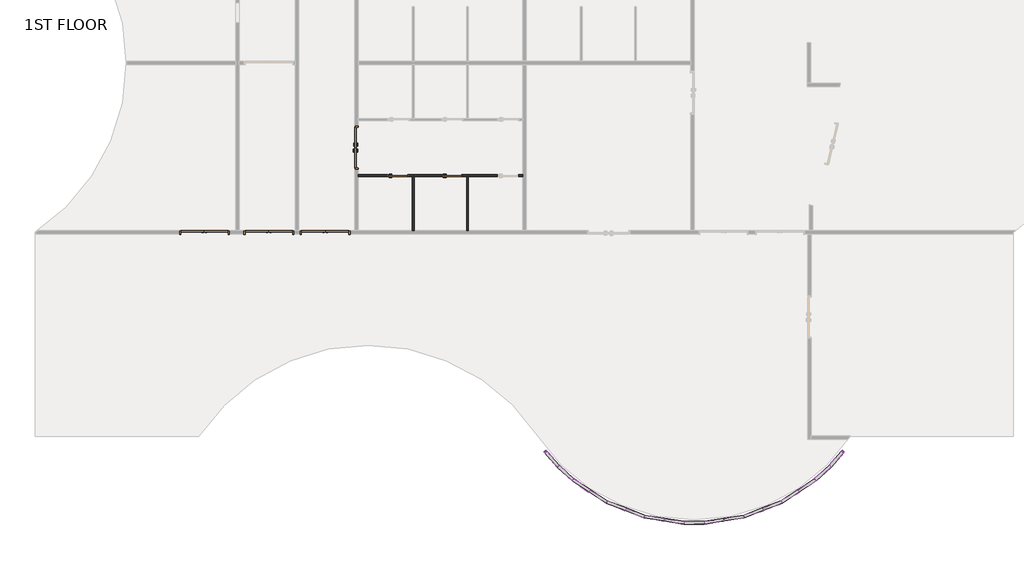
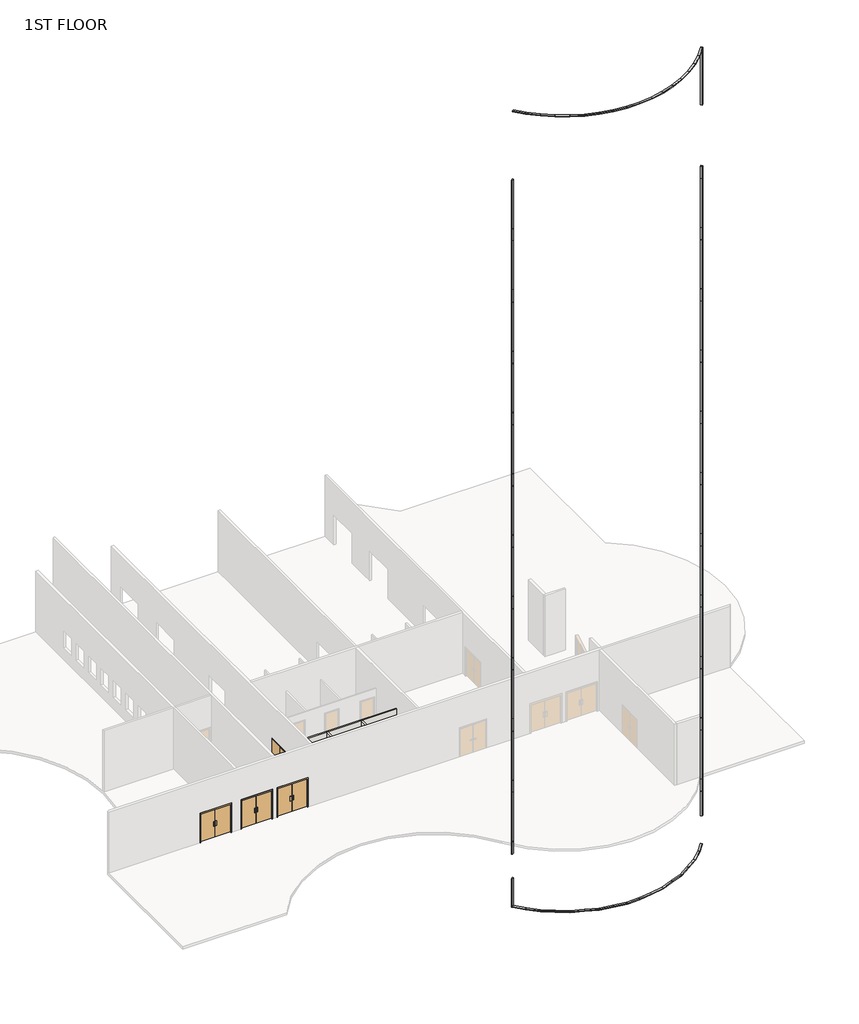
# One storey, part 1 of 17: 80 members, 6 doors, 3 walls.
"""IFC4 building model written with IfcOpenShell, lengths in millimetres."""

from ifc_helpers import new_model, si_unit, frame, origin, place, context, project, spatial, polyline, outline, extrude, faceted_brep, transform, mapped, element, save
from components import door_2f250f70, door_0b13e4d9, door_b3a27a16, door_f8b587be, member_a3aeaf12, member_a04b3e9c, member_866ffaa2, member_110634b6, member_0f373adf, member_7a4957c5, member_d8b564d6, member_ba27367e, member_8291d7f9, member_efa39264, member_3374d9b6, member_45b72dba, member_73c23c35, member_2fae0574, member_4d31274b

model = new_model("IFC4")

# Units and contexts
model_context = context("Model", 3, world=origin())
ifc_project = project(units=[si_unit("LENGTHUNIT", "METRE", prefix="MILLI")], contexts=[model_context])

# Site, building, storey
site = spatial("IfcSite", under=ifc_project)
building = spatial("IfcBuilding", under=site)
storey = spatial("IfcBuildingStorey", under=building, Name="1ST FLOOR", Elevation=4572.0)

# Doors
placement = place(None, origin())
door_shape = door_2f250f70(model_context)
element("IfcDoor", 1, ObjectType="Door-Passage-Double-Flush : 72\" x 82\"", at=placement, inside=storey, context=model_context, shape_type="MappedRepresentation", body=[
    mapped(door_shape, transform((14556.3400257, 13109.575, 4572.0), x_axis=(0.0, 1.0, 0.0), y_axis=(-1.0, 0.0, 0.0), z_axis=(0.0, 0.0, 1.0))),
])
door_2_shape = door_0b13e4d9(model_context)
element("IfcDoor", 2, ObjectType="Door-Passage-Double-Flush-Dbl_Acting : 84\" x 84\"", at=placement, inside=storey, context=model_context, shape_type="MappedRepresentation", body=[
    mapped(door_2_shape, transform((13151.4025257, 9293.225, 4572.0), x_axis=(-1.0, 0.0, 0.0), y_axis=(0.0, -1.0, 0.0), z_axis=(0.0, 0.0, 1.0))),
])
door_3_shape = door_b3a27a16(model_context)
element("IfcDoor", 3, ObjectType="Door-Passage-Double-Flush-Dbl_Acting : 84\" x 84\"", at=placement, inside=storey, context=model_context, shape_type="MappedRepresentation", body=[
    mapped(door_3_shape, transform((10620.375, 9293.225, 4572.0), x_axis=(1.0, 0.0, 0.0), y_axis=(0.0, 1.0, 0.0), z_axis=(0.0, 0.0, 1.0))),
])
element("IfcDoor", 4, ObjectType="Door-Passage-Double-Flush-Dbl_Acting : 84\" x 84\"", at=placement, inside=storey, context=model_context, shape_type="MappedRepresentation", body=[
    mapped(door_3_shape, transform((7730.5724743, 9293.225, 4572.0), x_axis=(1.0, 0.0, 0.0), y_axis=(0.0, 1.0, 0.0), z_axis=(0.0, 0.0, 1.0))),
])
door_4_shape = door_f8b587be(model_context)
element("IfcDoor", 5, ObjectType="Door-Passage-Single-Flush : 36\" x 96\"", at=placement, inside=storey, context=model_context, shape_type="MappedRepresentation", body=[
    mapped(door_4_shape, transform((16405.7775257, 11861.8, 4572.0), x_axis=(1.0, 0.0, 0.0), y_axis=(0.0, 1.0, 0.0), z_axis=(0.0, 0.0, 1.0))),
])
element("IfcDoor", 6, ObjectType="Door-Passage-Single-Flush : 36\" x 96\"", at=placement, inside=storey, context=model_context, shape_type="MappedRepresentation", body=[
    mapped(door_4_shape, transform((18836.2400257, 11861.8, 4572.0), x_axis=(1.0, 0.0, 0.0), y_axis=(0.0, 1.0, 0.0), z_axis=(0.0, 0.0, 1.0))),
])

# Members
member_shape = member_a3aeaf12(model_context)
element("IfcMember", 7, ObjectType="Rectangular Mullion : 2.5\" x 5\" rectangular", at=placement, inside=storey, context=model_context, shape_type="MappedRepresentation", body=[
    mapped(member_shape, transform((23054.0543465, -570.7527363, 59436.0), x_axis=(0.0, 0.0, 1.0), y_axis=(0.7489925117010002, 0.6625784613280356, 0.0), z_axis=(-0.6625784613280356, 0.7489925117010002, 0.0))),
])
member_2_shape = member_a04b3e9c(model_context)
element("IfcMember", 8, ObjectType="Rectangular Mullion : 2.5\" x 5\" rectangular", at=placement, inside=storey, context=model_context, shape_type="MappedRepresentation", body=[
    mapped(member_2_shape, transform((35812.732193, -1201.0963321, 59436.0), x_axis=(0.0, 0.0, 1.0), y_axis=(-0.7489925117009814, 0.662578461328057, 0.0), z_axis=(-0.662578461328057, -0.7489925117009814, 0.0))),
])
member_3_shape = member_866ffaa2(model_context)
element("IfcMember", 9, ObjectType="Rectangular Mullion : 2.5\" x 5\" rectangular", at=placement, inside=storey, context=model_context, shape_type="MappedRepresentation", body=[
    mapped(member_3_shape, transform((35144.7939118, -1811.8695298, 59436.0), x_axis=(0.0, 0.0, 1.0), y_axis=(-0.6748214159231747, 0.7379810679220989, 0.0), z_axis=(-0.7379810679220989, -0.6748214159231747, 0.0))),
])
element("IfcMember", 10, ObjectType="Rectangular Mullion : 2.5\" x 5\" rectangular", at=placement, inside=storey, context=model_context, shape_type="MappedRepresentation", body=[
    mapped(member_3_shape, transform((34416.08175, -2348.6786501, 59436.0), x_axis=(0.0, 0.0, 1.0), y_axis=(-0.5931011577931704, 0.8051279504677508, 0.0), z_axis=(-0.8051279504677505, -0.5931011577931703, 0.0))),
])
element("IfcMember", 11, ObjectType="Rectangular Mullion : 2.5\" x 5\" rectangular", at=placement, inside=storey, context=model_context, shape_type="MappedRepresentation", body=[
    mapped(member_3_shape, transform((33634.7477409, -2805.5184609, 59436.0), x_axis=(0.0, 0.0, 1.0), y_axis=(-0.504745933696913, 0.863267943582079, 0.0), z_axis=(-0.8632679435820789, -0.5047459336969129, 0.0))),
])
element("IfcMember", 12, ObjectType="Rectangular Mullion : 2.5\" x 5\" rectangular", at=placement, inside=storey, context=model_context, shape_type="MappedRepresentation", body=[
    mapped(member_3_shape, transform((32809.5325933, -3177.2783387, 59436.0), x_axis=(0.0, 0.0, 1.0), y_axis=(-0.4107441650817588, 0.9117506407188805, 0.0), z_axis=(-0.9117506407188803, -0.41074416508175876, 0.0))),
])
element("IfcMember", 13, ObjectType="Rectangular Mullion : 2.5\" x 5\" rectangular", at=placement, inside=storey, context=model_context, shape_type="MappedRepresentation", body=[
    mapped(member_3_shape, transform((31949.6679103, -3459.7994414, 59436.0), x_axis=(0.0, 0.0, 1.0), y_axis=(-0.3121474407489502, 0.9500336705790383, 0.0), z_axis=(-0.9500336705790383, -0.3121474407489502, 0.0))),
])
element("IfcMember", 14, ObjectType="Rectangular Mullion : 2.5\" x 5\" rectangular", at=placement, inside=storey, context=model_context, shape_type="MappedRepresentation", body=[
    mapped(member_3_shape, transform((31064.7729159, -3649.9212323, 59436.0), x_axis=(0.0, 0.0, 1.0), y_axis=(-0.21005875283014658, 0.9776887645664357, 0.0), z_axis=(-0.9776887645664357, -0.21005875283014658, 0.0))),
])
element("IfcMember", 15, ObjectType="Rectangular Mullion : 2.5\" x 5\" rectangular", at=placement, inside=storey, context=model_context, shape_type="MappedRepresentation", body=[
    mapped(member_3_shape, transform((30164.7468458, -3745.5168373, 59436.0), x_axis=(0.0, 0.0, 1.0), y_axis=(-0.10562015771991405, 0.9944065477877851, 0.0), z_axis=(-0.9944065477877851, -0.10562015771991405, 0.0))),
])
element("IfcMember", 16, ObjectType="Rectangular Mullion : 2.5\" x 5\" rectangular", at=placement, inside=storey, context=model_context, shape_type="MappedRepresentation", body=[
    mapped(member_3_shape, transform((29259.6582057, -3745.5168373, 59436.0), x_axis=(0.0, 0.0, 1.0), y_axis=(0.0, 1.0, 0.0), z_axis=(-1.0, 0.0, 0.0))),
])
element("IfcMember", 17, ObjectType="Rectangular Mullion : 2.5\" x 5\" rectangular", at=placement, inside=storey, context=model_context, shape_type="MappedRepresentation", body=[
    mapped(member_3_shape, transform((28359.6321356, -3649.9212323, 59436.0), x_axis=(0.0, 0.0, 1.0), y_axis=(0.10562015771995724, 0.9944065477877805, 0.0), z_axis=(-0.9944065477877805, 0.10562015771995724, 0.0))),
])
element("IfcMember", 18, ObjectType="Rectangular Mullion : 2.5\" x 5\" rectangular", at=placement, inside=storey, context=model_context, shape_type="MappedRepresentation", body=[
    mapped(member_3_shape, transform((27474.7371412, -3459.7994414, 59436.0), x_axis=(0.0, 0.0, 1.0), y_axis=(0.21005875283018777, 0.977688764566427, 0.0), z_axis=(-0.9776887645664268, 0.21005875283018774, 0.0))),
])
element("IfcMember", 19, ObjectType="Rectangular Mullion : 2.5\" x 5\" rectangular", at=placement, inside=storey, context=model_context, shape_type="MappedRepresentation", body=[
    mapped(member_3_shape, transform((26614.8724582, -3177.2783387, 59436.0), x_axis=(0.0, 0.0, 1.0), y_axis=(0.31214744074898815, 0.9500336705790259, 0.0), z_axis=(-0.9500336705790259, 0.31214744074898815, 0.0))),
])
element("IfcMember", 20, ObjectType="Rectangular Mullion : 2.5\" x 5\" rectangular", at=placement, inside=storey, context=model_context, shape_type="MappedRepresentation", body=[
    mapped(member_3_shape, transform((25789.6573106, -2805.5184609, 59436.0), x_axis=(0.0, 0.0, 1.0), y_axis=(0.4107441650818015, 0.9117506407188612, 0.0), z_axis=(-0.9117506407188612, 0.4107441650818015, 0.0))),
])
element("IfcMember", 21, ObjectType="Rectangular Mullion : 2.5\" x 5\" rectangular", at=placement, inside=storey, context=model_context, shape_type="MappedRepresentation", body=[
    mapped(member_3_shape, transform((25008.3233015, -2348.6786501, 59436.0), x_axis=(0.0, 0.0, 1.0), y_axis=(0.5047459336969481, 0.8632679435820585, 0.0), z_axis=(-0.8632679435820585, 0.5047459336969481, 0.0))),
])
element("IfcMember", 22, ObjectType="Rectangular Mullion : 2.5\" x 5\" rectangular", at=placement, inside=storey, context=model_context, shape_type="MappedRepresentation", body=[
    mapped(member_3_shape, transform((24279.6111396, -1811.8695298, 59436.0), x_axis=(0.0, 0.0, 1.0), y_axis=(0.593101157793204, 0.805127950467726, 0.0), z_axis=(-0.8051279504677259, 0.5931011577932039, 0.0))),
])
element("IfcMember", 23, ObjectType="Rectangular Mullion : 2.5\" x 5\" rectangular", at=placement, inside=storey, context=model_context, shape_type="MappedRepresentation", body=[
    mapped(member_shape, transform((36370.350705, -570.7527363, 0.0), x_axis=(0.0, 0.0, -1.0), y_axis=(-0.7489925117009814, 0.662578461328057, 0.0), z_axis=(0.662578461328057, 0.7489925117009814, 0.0))),
])
member_4_shape = member_110634b6(model_context)
element("IfcMember", 24, ObjectType="Rectangular Mullion : 2.5\" x 5\" rectangular", at=placement, inside=storey, context=model_context, shape_type="MappedRepresentation", body=[
    mapped(member_4_shape, transform((35812.732193, -1201.0963321, 0.0), x_axis=(0.0, 0.0, -1.0), y_axis=(-0.6748214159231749, 0.7379810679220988, 0.0), z_axis=(0.7379810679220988, 0.6748214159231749, 0.0))),
])
member_5_shape = member_0f373adf(model_context)
element("IfcMember", 25, ObjectType="Rectangular Mullion : 2.5\" x 5\" rectangular", at=placement, inside=storey, context=model_context, shape_type="MappedRepresentation", body=[
    mapped(member_5_shape, transform((35144.7939118, -1811.8695298, 0.0), x_axis=(0.0, 0.0, -1.0), y_axis=(-0.5496927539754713, 0.8353669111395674, 0.0), z_axis=(0.8353669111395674, 0.5496927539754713, 0.0))),
])
element("IfcMember", 26, ObjectType="Rectangular Mullion : 2.5\" x 5\" rectangular", at=placement, inside=storey, context=model_context, shape_type="MappedRepresentation", body=[
    mapped(member_5_shape, transform((29259.6582057, -3745.5168373, 0.0), x_axis=(0.0, 0.0, -1.0), y_axis=(0.15806063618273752, 0.9874294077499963, 0.0), z_axis=(0.9874294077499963, -0.15806063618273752, 0.0))),
])
member_6_shape = member_7a4957c5(model_context)
element("IfcMember", 27, ObjectType="Rectangular Mullion : 2.5\" x 5\" rectangular", at=placement, inside=storey, context=model_context, shape_type="MappedRepresentation", body=[
    mapped(member_6_shape, transform((34389.7708263, -2308.6939953, 0.0), x_axis=(0.0, 0.0, -1.0), y_axis=(-0.5496927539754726, 0.8353669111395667, 0.0), z_axis=(0.8353669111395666, 0.5496927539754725, 0.0))),
])
element("IfcMember", 28, ObjectType="Rectangular Mullion : 2.5\" x 5\" rectangular", at=placement, inside=storey, context=model_context, shape_type="MappedRepresentation", body=[
    mapped(member_6_shape, transform((32792.2078256, -3132.6589511, 0.0), x_axis=(0.0, 0.0, -1.0), y_axis=(-0.3619522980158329, 0.9321966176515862, 0.0), z_axis=(0.9321966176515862, 0.3619522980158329, 0.0))),
])
element("IfcMember", 29, ObjectType="Rectangular Mullion : 2.5\" x 5\" rectangular", at=placement, inside=storey, context=model_context, shape_type="MappedRepresentation", body=[
    mapped(member_6_shape, transform((28367.1976734, -3602.6581393, 0.0), x_axis=(0.0, 0.0, -1.0), y_axis=(0.15806063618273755, 0.9874294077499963, 0.0), z_axis=(0.9874294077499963, -0.15806063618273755, 0.0))),
])
element("IfcMember", 30, ObjectType="Rectangular Mullion : 2.5\" x 5\" rectangular", at=placement, inside=storey, context=model_context, shape_type="MappedRepresentation", body=[
    mapped(member_6_shape, transform((26632.1972259, -3132.6589511, 0.0), x_axis=(0.0, 0.0, -1.0), y_axis=(0.361952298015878, 0.9321966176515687, 0.0), z_axis=(0.9321966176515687, -0.361952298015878, 0.0))),
])
member_7_shape = member_d8b564d6(model_context)
element("IfcMember", 31, ObjectType="Rectangular Mullion : 2.5\" x 5\" rectangular", at=placement, inside=storey, context=model_context, shape_type="MappedRepresentation", body=[
    mapped(member_7_shape, transform((33634.7477409, -2805.5184609, 0.0), x_axis=(0.0, 0.0, -1.0), y_axis=(-0.3619522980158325, 0.9321966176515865, 0.0), z_axis=(0.9321966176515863, 0.36195229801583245, 0.0))),
])
element("IfcMember", 32, ObjectType="Rectangular Mullion : 2.5\" x 5\" rectangular", at=placement, inside=storey, context=model_context, shape_type="MappedRepresentation", body=[
    mapped(member_7_shape, transform((31949.6679103, -3459.7994414, 0.0), x_axis=(0.0, 0.0, -1.0), y_axis=(-0.15806063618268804, 0.9874294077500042, 0.0), z_axis=(0.9874294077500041, 0.158060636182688, 0.0))),
])
element("IfcMember", 33, ObjectType="Rectangular Mullion : 2.5\" x 5\" rectangular", at=placement, inside=storey, context=model_context, shape_type="MappedRepresentation", body=[
    mapped(member_7_shape, transform((27474.7371412, -3459.7994414, 0.0), x_axis=(0.0, 0.0, -1.0), y_axis=(0.3619522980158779, 0.9321966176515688, 0.0), z_axis=(0.9321966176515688, -0.3619522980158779, 0.0))),
])
element("IfcMember", 34, ObjectType="Rectangular Mullion : 2.5\" x 5\" rectangular", at=placement, inside=storey, context=model_context, shape_type="MappedRepresentation", body=[
    mapped(member_7_shape, transform((25789.6573106, -2805.5184609, 0.0), x_axis=(0.0, 0.0, -1.0), y_axis=(0.5496927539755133, 0.8353669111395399, 0.0), z_axis=(0.8353669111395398, -0.5496927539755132, 0.0))),
])
member_8_shape = member_ba27367e(model_context)
element("IfcMember", 35, ObjectType="Rectangular Mullion : 2.5\" x 5\" rectangular", at=placement, inside=storey, context=model_context, shape_type="MappedRepresentation", body=[
    mapped(member_8_shape, transform((31057.2073781, -3602.6581393, 0.0), x_axis=(0.0, 0.0, -1.0), y_axis=(-0.15806063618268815, 0.9874294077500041, 0.0), z_axis=(0.9874294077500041, 0.15806063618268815, 0.0))),
])
element("IfcMember", 36, ObjectType="Rectangular Mullion : 2.5\" x 5\" rectangular", at=placement, inside=storey, context=model_context, shape_type="MappedRepresentation", body=[
    mapped(member_8_shape, transform((25034.6342251, -2308.6939953, 0.0), x_axis=(0.0, 0.0, -1.0), y_axis=(0.5496927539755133, 0.8353669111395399, 0.0), z_axis=(0.8353669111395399, -0.5496927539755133, 0.0))),
])
member_9_shape = member_8291d7f9(model_context)
element("IfcMember", 37, ObjectType="Rectangular Mullion : 2.5\" x 5\" rectangular", at=placement, inside=storey, context=model_context, shape_type="MappedRepresentation", body=[
    mapped(member_9_shape, transform((30164.7468458, -3745.5168373, 0.0), x_axis=(0.0, 0.0, -1.0), y_axis=(0.0, 1.0, 0.0), z_axis=(1.0, 0.0, 0.0))),
])
element("IfcMember", 38, ObjectType="Rectangular Mullion : 2.5\" x 5\" rectangular", at=placement, inside=storey, context=model_context, shape_type="MappedRepresentation", body=[
    mapped(member_3_shape, transform((23611.6728584, -1201.0963321, 59436.0), x_axis=(0.0, 0.0, 1.0), y_axis=(0.6748214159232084, 0.7379810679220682, 0.0), z_axis=(-0.7379810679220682, 0.6748214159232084, 0.0))),
])
member_10_shape = member_efa39264(model_context)
element("IfcMember", 39, ObjectType="Rectangular Mullion : 2.5\" x 5\" rectangular", at=placement, inside=storey, context=model_context, shape_type="MappedRepresentation", body=[
    mapped(member_10_shape, transform((24279.6111396, -1811.8695298, 0.0), x_axis=(0.0, 0.0, -1.0), y_axis=(0.6748214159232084, 0.7379810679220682, 0.0), z_axis=(0.7379810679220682, -0.6748214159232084, 0.0))),
])
element("IfcMember", 40, ObjectType="Rectangular Mullion : 2.5\" x 5\" rectangular", at=placement, inside=storey, context=model_context, shape_type="MappedRepresentation", body=[
    mapped(member_2_shape, transform((23611.6728584, -1201.0963321, 0.0), x_axis=(0.0, 0.0, -1.0), y_axis=(0.7489925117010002, 0.6625784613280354, 0.0), z_axis=(0.6625784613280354, -0.7489925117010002, 0.0))),
])
member_11_shape = member_3374d9b6(model_context)
element("IfcMember", 41, ObjectType="Rectangular Mullion : 2.5\" x 5\" rectangular", at=placement, inside=storey, context=model_context, shape_type="MappedRepresentation", body=[
    mapped(member_11_shape, transform((23011.9806142, -523.1917118, 0.0), x_axis=(-0.6625784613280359, 0.748992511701, 0.0), y_axis=(0.748992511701, 0.6625784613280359, 0.0), z_axis=(0.0, 0.0, -1.0))),
])
member_12_shape = member_45b72dba(model_context)
element("IfcMember", 42, ObjectType="Rectangular Mullion : 2.5\" x 5\" rectangular", at=placement, inside=storey, context=model_context, shape_type="MappedRepresentation", body=[
    mapped(member_12_shape, transform((36412.4244373, -523.1917118, 59436.0), x_axis=(0.6625784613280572, 0.7489925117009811, 0.0), y_axis=(-0.7489925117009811, 0.6625784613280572, 0.0), z_axis=(0.0, 0.0, 1.0))),
])
member_13_shape = member_73c23c35(model_context)
element("IfcMember", 43, ObjectType="Rectangular Mullion : 2.5\" x 5\" rectangular", at=placement, inside=storey, context=model_context, shape_type="MappedRepresentation", body=[
    mapped(member_13_shape, transform((23011.9806142, -523.1917118, 3962.4), x_axis=(-0.6625784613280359, 0.748992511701, 0.0), y_axis=(0.748992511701, 0.6625784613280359, 0.0), z_axis=(0.0, 0.0, -1.0))),
])
element("IfcMember", 44, ObjectType="Rectangular Mullion : 2.5\" x 5\" rectangular", at=placement, inside=storey, context=model_context, shape_type="MappedRepresentation", body=[
    mapped(member_13_shape, transform((23011.9806142, -523.1917118, 8534.4), x_axis=(-0.6625784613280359, 0.748992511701, 0.0), y_axis=(0.748992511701, 0.6625784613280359, 0.0), z_axis=(0.0, 0.0, -1.0))),
])
element("IfcMember", 45, ObjectType="Rectangular Mullion : 2.5\" x 5\" rectangular", at=placement, inside=storey, context=model_context, shape_type="MappedRepresentation", body=[
    mapped(member_13_shape, transform((23011.9806142, -523.1917118, 13106.4), x_axis=(-0.6625784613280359, 0.748992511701, 0.0), y_axis=(0.748992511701, 0.6625784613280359, 0.0), z_axis=(0.0, 0.0, -1.0))),
])
element("IfcMember", 46, ObjectType="Rectangular Mullion : 2.5\" x 5\" rectangular", at=placement, inside=storey, context=model_context, shape_type="MappedRepresentation", body=[
    mapped(member_13_shape, transform((23011.9806142, -523.1917118, 17678.4), x_axis=(-0.6625784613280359, 0.748992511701, 0.0), y_axis=(0.748992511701, 0.6625784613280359, 0.0), z_axis=(0.0, 0.0, -1.0))),
])
element("IfcMember", 47, ObjectType="Rectangular Mullion : 2.5\" x 5\" rectangular", at=placement, inside=storey, context=model_context, shape_type="MappedRepresentation", body=[
    mapped(member_13_shape, transform((23011.9806142, -523.1917118, 22250.4), x_axis=(-0.6625784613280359, 0.748992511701, 0.0), y_axis=(0.748992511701, 0.6625784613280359, 0.0), z_axis=(0.0, 0.0, -1.0))),
])
element("IfcMember", 48, ObjectType="Rectangular Mullion : 2.5\" x 5\" rectangular", at=placement, inside=storey, context=model_context, shape_type="MappedRepresentation", body=[
    mapped(member_13_shape, transform((23011.9806142, -523.1917118, 26822.4), x_axis=(-0.6625784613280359, 0.748992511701, 0.0), y_axis=(0.748992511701, 0.6625784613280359, 0.0), z_axis=(0.0, 0.0, -1.0))),
])
element("IfcMember", 49, ObjectType="Rectangular Mullion : 2.5\" x 5\" rectangular", at=placement, inside=storey, context=model_context, shape_type="MappedRepresentation", body=[
    mapped(member_13_shape, transform((23011.9806142, -523.1917118, 31394.4), x_axis=(-0.6625784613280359, 0.748992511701, 0.0), y_axis=(0.748992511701, 0.6625784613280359, 0.0), z_axis=(0.0, 0.0, -1.0))),
])
element("IfcMember", 50, ObjectType="Rectangular Mullion : 2.5\" x 5\" rectangular", at=placement, inside=storey, context=model_context, shape_type="MappedRepresentation", body=[
    mapped(member_13_shape, transform((23011.9806142, -523.1917118, 35966.4), x_axis=(-0.6625784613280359, 0.748992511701, 0.0), y_axis=(0.748992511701, 0.6625784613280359, 0.0), z_axis=(0.0, 0.0, -1.0))),
])
element("IfcMember", 51, ObjectType="Rectangular Mullion : 2.5\" x 5\" rectangular", at=placement, inside=storey, context=model_context, shape_type="MappedRepresentation", body=[
    mapped(member_13_shape, transform((23011.9806142, -523.1917118, 40538.4), x_axis=(-0.6625784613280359, 0.748992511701, 0.0), y_axis=(0.748992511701, 0.6625784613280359, 0.0), z_axis=(0.0, 0.0, -1.0))),
])
element("IfcMember", 52, ObjectType="Rectangular Mullion : 2.5\" x 5\" rectangular", at=placement, inside=storey, context=model_context, shape_type="MappedRepresentation", body=[
    mapped(member_13_shape, transform((23011.9806142, -523.1917118, 45110.4), x_axis=(-0.6625784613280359, 0.748992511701, 0.0), y_axis=(0.748992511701, 0.6625784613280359, 0.0), z_axis=(0.0, 0.0, -1.0))),
])
element("IfcMember", 53, ObjectType="Rectangular Mullion : 2.5\" x 5\" rectangular", at=placement, inside=storey, context=model_context, shape_type="MappedRepresentation", body=[
    mapped(member_13_shape, transform((23011.9806142, -523.1917118, 49682.4), x_axis=(-0.6625784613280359, 0.748992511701, 0.0), y_axis=(0.748992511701, 0.6625784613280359, 0.0), z_axis=(0.0, 0.0, -1.0))),
])
member_14_shape = member_2fae0574(model_context)
element("IfcMember", 54, ObjectType="Rectangular Mullion : 2.5\" x 5\" rectangular", at=placement, inside=storey, context=model_context, shape_type="MappedRepresentation", body=[
    mapped(member_14_shape, transform((36412.4244373, -523.1917118, 3962.4), x_axis=(0.6625784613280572, 0.7489925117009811, 0.0), y_axis=(-0.7489925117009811, 0.6625784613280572, 0.0), z_axis=(0.0, 0.0, 1.0))),
])
element("IfcMember", 55, ObjectType="Rectangular Mullion : 2.5\" x 5\" rectangular", at=placement, inside=storey, context=model_context, shape_type="MappedRepresentation", body=[
    mapped(member_13_shape, transform((36412.4244373, -523.1917118, 4876.8), x_axis=(0.6625784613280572, 0.7489925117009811, 0.0), y_axis=(-0.7489925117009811, 0.6625784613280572, 0.0), z_axis=(0.0, 0.0, 1.0))),
])
element("IfcMember", 56, ObjectType="Rectangular Mullion : 2.5\" x 5\" rectangular", at=placement, inside=storey, context=model_context, shape_type="MappedRepresentation", body=[
    mapped(member_13_shape, transform((36412.4244373, -523.1917118, 9448.8), x_axis=(0.6625784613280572, 0.7489925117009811, 0.0), y_axis=(-0.7489925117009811, 0.6625784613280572, 0.0), z_axis=(0.0, 0.0, 1.0))),
])
element("IfcMember", 57, ObjectType="Rectangular Mullion : 2.5\" x 5\" rectangular", at=placement, inside=storey, context=model_context, shape_type="MappedRepresentation", body=[
    mapped(member_13_shape, transform((36412.4244373, -523.1917118, 14020.8), x_axis=(0.6625784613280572, 0.7489925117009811, 0.0), y_axis=(-0.7489925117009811, 0.6625784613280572, 0.0), z_axis=(0.0, 0.0, 1.0))),
])
element("IfcMember", 58, ObjectType="Rectangular Mullion : 2.5\" x 5\" rectangular", at=placement, inside=storey, context=model_context, shape_type="MappedRepresentation", body=[
    mapped(member_13_shape, transform((36412.4244373, -523.1917118, 18592.8), x_axis=(0.6625784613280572, 0.7489925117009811, 0.0), y_axis=(-0.7489925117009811, 0.6625784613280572, 0.0), z_axis=(0.0, 0.0, 1.0))),
])
element("IfcMember", 59, ObjectType="Rectangular Mullion : 2.5\" x 5\" rectangular", at=placement, inside=storey, context=model_context, shape_type="MappedRepresentation", body=[
    mapped(member_13_shape, transform((36412.4244373, -523.1917118, 23164.8), x_axis=(0.6625784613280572, 0.7489925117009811, 0.0), y_axis=(-0.7489925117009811, 0.6625784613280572, 0.0), z_axis=(0.0, 0.0, 1.0))),
])
element("IfcMember", 60, ObjectType="Rectangular Mullion : 2.5\" x 5\" rectangular", at=placement, inside=storey, context=model_context, shape_type="MappedRepresentation", body=[
    mapped(member_13_shape, transform((36412.4244373, -523.1917118, 27736.8), x_axis=(0.6625784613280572, 0.7489925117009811, 0.0), y_axis=(-0.7489925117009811, 0.6625784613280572, 0.0), z_axis=(0.0, 0.0, 1.0))),
])
element("IfcMember", 61, ObjectType="Rectangular Mullion : 2.5\" x 5\" rectangular", at=placement, inside=storey, context=model_context, shape_type="MappedRepresentation", body=[
    mapped(member_13_shape, transform((36412.4244373, -523.1917118, 32308.8), x_axis=(0.6625784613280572, 0.7489925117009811, 0.0), y_axis=(-0.7489925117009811, 0.6625784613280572, 0.0), z_axis=(0.0, 0.0, 1.0))),
])
element("IfcMember", 62, ObjectType="Rectangular Mullion : 2.5\" x 5\" rectangular", at=placement, inside=storey, context=model_context, shape_type="MappedRepresentation", body=[
    mapped(member_13_shape, transform((36412.4244373, -523.1917118, 36880.8), x_axis=(0.6625784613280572, 0.7489925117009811, 0.0), y_axis=(-0.7489925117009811, 0.6625784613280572, 0.0), z_axis=(0.0, 0.0, 1.0))),
])
element("IfcMember", 63, ObjectType="Rectangular Mullion : 2.5\" x 5\" rectangular", at=placement, inside=storey, context=model_context, shape_type="MappedRepresentation", body=[
    mapped(member_13_shape, transform((36412.4244373, -523.1917118, 41452.8), x_axis=(0.6625784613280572, 0.7489925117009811, 0.0), y_axis=(-0.7489925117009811, 0.6625784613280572, 0.0), z_axis=(0.0, 0.0, 1.0))),
])
element("IfcMember", 64, ObjectType="Rectangular Mullion : 2.5\" x 5\" rectangular", at=placement, inside=storey, context=model_context, shape_type="MappedRepresentation", body=[
    mapped(member_13_shape, transform((36412.4244373, -523.1917118, 46024.8), x_axis=(0.6625784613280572, 0.7489925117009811, 0.0), y_axis=(-0.7489925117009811, 0.6625784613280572, 0.0), z_axis=(0.0, 0.0, 1.0))),
])
element("IfcMember", 65, ObjectType="Rectangular Mullion : 2.5\" x 5\" rectangular", at=placement, inside=storey, context=model_context, shape_type="MappedRepresentation", body=[
    mapped(member_13_shape, transform((36412.4244373, -523.1917118, 50596.8), x_axis=(0.6625784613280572, 0.7489925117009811, 0.0), y_axis=(-0.7489925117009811, 0.6625784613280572, 0.0), z_axis=(0.0, 0.0, 1.0))),
])
member_15_shape = member_4d31274b(model_context)
element("IfcMember", 66, ObjectType="Rectangular Mullion : 2.5\" x 5\" rectangular", at=placement, inside=storey, context=model_context, shape_type="MappedRepresentation", body=[
    mapped(member_15_shape, transform((23011.9806142, -523.1917118, 4876.8), x_axis=(-0.6625784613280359, 0.748992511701, 0.0), y_axis=(0.748992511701, 0.6625784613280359, 0.0), z_axis=(0.0, 0.0, -1.0))),
])
element("IfcMember", 67, ObjectType="Rectangular Mullion : 2.5\" x 5\" rectangular", at=placement, inside=storey, context=model_context, shape_type="MappedRepresentation", body=[
    mapped(member_15_shape, transform((23011.9806142, -523.1917118, 9448.8), x_axis=(-0.6625784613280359, 0.748992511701, 0.0), y_axis=(0.748992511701, 0.6625784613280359, 0.0), z_axis=(0.0, 0.0, -1.0))),
])
element("IfcMember", 68, ObjectType="Rectangular Mullion : 2.5\" x 5\" rectangular", at=placement, inside=storey, context=model_context, shape_type="MappedRepresentation", body=[
    mapped(member_15_shape, transform((23011.9806142, -523.1917118, 14020.8), x_axis=(-0.6625784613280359, 0.748992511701, 0.0), y_axis=(0.748992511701, 0.6625784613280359, 0.0), z_axis=(0.0, 0.0, -1.0))),
])
element("IfcMember", 69, ObjectType="Rectangular Mullion : 2.5\" x 5\" rectangular", at=placement, inside=storey, context=model_context, shape_type="MappedRepresentation", body=[
    mapped(member_15_shape, transform((23011.9806142, -523.1917118, 18592.8), x_axis=(-0.6625784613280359, 0.748992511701, 0.0), y_axis=(0.748992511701, 0.6625784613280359, 0.0), z_axis=(0.0, 0.0, -1.0))),
])
element("IfcMember", 70, ObjectType="Rectangular Mullion : 2.5\" x 5\" rectangular", at=placement, inside=storey, context=model_context, shape_type="MappedRepresentation", body=[
    mapped(member_15_shape, transform((23011.9806142, -523.1917118, 23164.8), x_axis=(-0.6625784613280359, 0.748992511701, 0.0), y_axis=(0.748992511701, 0.6625784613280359, 0.0), z_axis=(0.0, 0.0, -1.0))),
])
element("IfcMember", 71, ObjectType="Rectangular Mullion : 2.5\" x 5\" rectangular", at=placement, inside=storey, context=model_context, shape_type="MappedRepresentation", body=[
    mapped(member_15_shape, transform((23011.9806142, -523.1917118, 27736.8), x_axis=(-0.6625784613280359, 0.748992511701, 0.0), y_axis=(0.748992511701, 0.6625784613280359, 0.0), z_axis=(0.0, 0.0, -1.0))),
])
element("IfcMember", 72, ObjectType="Rectangular Mullion : 2.5\" x 5\" rectangular", at=placement, inside=storey, context=model_context, shape_type="MappedRepresentation", body=[
    mapped(member_15_shape, transform((23011.9806142, -523.1917118, 32308.8), x_axis=(-0.6625784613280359, 0.748992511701, 0.0), y_axis=(0.748992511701, 0.6625784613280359, 0.0), z_axis=(0.0, 0.0, -1.0))),
])
element("IfcMember", 73, ObjectType="Rectangular Mullion : 2.5\" x 5\" rectangular", at=placement, inside=storey, context=model_context, shape_type="MappedRepresentation", body=[
    mapped(member_15_shape, transform((23011.9806142, -523.1917118, 36880.8), x_axis=(-0.6625784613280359, 0.748992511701, 0.0), y_axis=(0.748992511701, 0.6625784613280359, 0.0), z_axis=(0.0, 0.0, -1.0))),
])
element("IfcMember", 74, ObjectType="Rectangular Mullion : 2.5\" x 5\" rectangular", at=placement, inside=storey, context=model_context, shape_type="MappedRepresentation", body=[
    mapped(member_15_shape, transform((23011.9806142, -523.1917118, 41452.8), x_axis=(-0.6625784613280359, 0.748992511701, 0.0), y_axis=(0.748992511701, 0.6625784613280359, 0.0), z_axis=(0.0, 0.0, -1.0))),
])
element("IfcMember", 75, ObjectType="Rectangular Mullion : 2.5\" x 5\" rectangular", at=placement, inside=storey, context=model_context, shape_type="MappedRepresentation", body=[
    mapped(member_15_shape, transform((23011.9806142, -523.1917118, 46024.8), x_axis=(-0.6625784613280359, 0.748992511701, 0.0), y_axis=(0.748992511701, 0.6625784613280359, 0.0), z_axis=(0.0, 0.0, -1.0))),
])
element("IfcMember", 76, ObjectType="Rectangular Mullion : 2.5\" x 5\" rectangular", at=placement, inside=storey, context=model_context, shape_type="MappedRepresentation", body=[
    mapped(member_15_shape, transform((23011.9806142, -523.1917118, 50596.8), x_axis=(-0.6625784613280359, 0.748992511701, 0.0), y_axis=(0.748992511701, 0.6625784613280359, 0.0), z_axis=(0.0, 0.0, -1.0))),
])
element("IfcMember", 77, ObjectType="Rectangular Mullion : 2.5\" x 5\" rectangular", at=placement, inside=storey, context=model_context, shape_type="MappedRepresentation", body=[
    mapped(member_15_shape, transform((36412.4244373, -523.1917118, 8534.4), x_axis=(0.6625784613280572, 0.7489925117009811, 0.0), y_axis=(-0.7489925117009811, 0.6625784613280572, 0.0), z_axis=(0.0, 0.0, 1.0))),
])
element("IfcMember", 78, ObjectType="Rectangular Mullion : 2.5\" x 5\" rectangular", at=placement, inside=storey, context=model_context, shape_type="MappedRepresentation", body=[
    mapped(member_15_shape, transform((36412.4244373, -523.1917118, 13106.4), x_axis=(0.6625784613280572, 0.7489925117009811, 0.0), y_axis=(-0.7489925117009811, 0.6625784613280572, 0.0), z_axis=(0.0, 0.0, 1.0))),
])
element("IfcMember", 79, ObjectType="Rectangular Mullion : 2.5\" x 5\" rectangular", at=placement, inside=storey, context=model_context, shape_type="MappedRepresentation", body=[
    mapped(member_15_shape, transform((36412.4244373, -523.1917118, 17678.4), x_axis=(0.6625784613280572, 0.7489925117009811, 0.0), y_axis=(-0.7489925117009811, 0.6625784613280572, 0.0), z_axis=(0.0, 0.0, 1.0))),
])
element("IfcMember", 80, ObjectType="Rectangular Mullion : 2.5\" x 5\" rectangular", at=placement, inside=storey, context=model_context, shape_type="MappedRepresentation", body=[
    mapped(member_15_shape, transform((36412.4244373, -523.1917118, 22250.4), x_axis=(0.6625784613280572, 0.7489925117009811, 0.0), y_axis=(-0.7489925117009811, 0.6625784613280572, 0.0), z_axis=(0.0, 0.0, 1.0))),
])
element("IfcMember", 81, ObjectType="Rectangular Mullion : 2.5\" x 5\" rectangular", at=placement, inside=storey, context=model_context, shape_type="MappedRepresentation", body=[
    mapped(member_15_shape, transform((36412.4244373, -523.1917118, 26822.4), x_axis=(0.6625784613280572, 0.7489925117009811, 0.0), y_axis=(-0.7489925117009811, 0.6625784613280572, 0.0), z_axis=(0.0, 0.0, 1.0))),
])
element("IfcMember", 82, ObjectType="Rectangular Mullion : 2.5\" x 5\" rectangular", at=placement, inside=storey, context=model_context, shape_type="MappedRepresentation", body=[
    mapped(member_15_shape, transform((36412.4244373, -523.1917118, 31394.4), x_axis=(0.6625784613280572, 0.7489925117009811, 0.0), y_axis=(-0.7489925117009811, 0.6625784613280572, 0.0), z_axis=(0.0, 0.0, 1.0))),
])
element("IfcMember", 83, ObjectType="Rectangular Mullion : 2.5\" x 5\" rectangular", at=placement, inside=storey, context=model_context, shape_type="MappedRepresentation", body=[
    mapped(member_15_shape, transform((36412.4244373, -523.1917118, 35966.4), x_axis=(0.6625784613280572, 0.7489925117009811, 0.0), y_axis=(-0.7489925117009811, 0.6625784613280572, 0.0), z_axis=(0.0, 0.0, 1.0))),
])
element("IfcMember", 84, ObjectType="Rectangular Mullion : 2.5\" x 5\" rectangular", at=placement, inside=storey, context=model_context, shape_type="MappedRepresentation", body=[
    mapped(member_15_shape, transform((36412.4244373, -523.1917118, 40538.4), x_axis=(0.6625784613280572, 0.7489925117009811, 0.0), y_axis=(-0.7489925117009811, 0.6625784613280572, 0.0), z_axis=(0.0, 0.0, 1.0))),
])
element("IfcMember", 85, ObjectType="Rectangular Mullion : 2.5\" x 5\" rectangular", at=placement, inside=storey, context=model_context, shape_type="MappedRepresentation", body=[
    mapped(member_15_shape, transform((36412.4244373, -523.1917118, 45110.4), x_axis=(0.6625784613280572, 0.7489925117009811, 0.0), y_axis=(-0.7489925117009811, 0.6625784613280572, 0.0), z_axis=(0.0, 0.0, 1.0))),
])
element("IfcMember", 86, ObjectType="Rectangular Mullion : 2.5\" x 5\" rectangular", at=placement, inside=storey, context=model_context, shape_type="MappedRepresentation", body=[
    mapped(member_15_shape, transform((36412.4244373, -523.1917118, 49682.4), x_axis=(0.6625784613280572, 0.7489925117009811, 0.0), y_axis=(-0.7489925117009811, 0.6625784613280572, 0.0), z_axis=(0.0, 0.0, 1.0))),
])

# Walls
element("IfcWall", 87, ObjectType="SYR_INT_ONE_HOUR", at=placement, inside=storey, context=model_context, shape_type="SweptSolid", body=[
    extrude(outline(polyline([(19576.0150257, 11815.7625), (19576.0150257, 9377.3625), (19496.6400257, 9377.3625), (19496.6400257, 11815.7625), (19576.0150257, 11815.7625)])), frame((0.0, 0.0, 4572.0), z_axis=(0.0, 0.0, 1.0), x_axis=(1.0, 0.0, 0.0)), (0.0, 0.0, 1.0), 3048.0),
])
element("IfcWall", 88, ObjectType="SYR_INT_ONE_HOUR", at=placement, inside=storey, context=model_context, shape_type="Brep", body=[
    faceted_brep([(14627.7775257, 11895.1375, 7620.0), (22014.4150257, 11895.1375, 7620.0), (22014.4150257, 11895.1375, 4572.0), (21842.9650257, 11895.1375, 4572.0), (21842.9650257, 11895.1375, 7042.15), (20865.0650257, 11895.1375, 7042.15), (20865.0650257, 11895.1375, 4572.0), (19325.1900257, 11895.1375, 4572.0), (19325.1900257, 11895.1375, 7042.15), (18347.2900257, 11895.1375, 7042.15), (18347.2900257, 11895.1375, 4572.0), (16894.7275257, 11895.1375, 4572.0), (16894.7275257, 11895.1375, 7042.15), (15916.8275257, 11895.1375, 7042.15), (15916.8275257, 11895.1375, 4572.0), (14627.7775257, 11895.1375, 4572.0), (22014.4150257, 11815.7625, 7620.0), (19576.0150257, 11815.7625, 7620.0), (19496.6400257, 11815.7625, 7620.0), (17145.5525257, 11815.7625, 7620.0), (17066.1775257, 11815.7625, 7620.0), (14627.7775257, 11815.7625, 7620.0), (14627.7775257, 11815.7625, 4572.0), (15916.8275257, 11815.7625, 4572.0), (15916.8275257, 11815.7625, 7042.15), (16894.7275257, 11815.7625, 7042.15), (16894.7275257, 11815.7625, 4572.0), (17066.1775257, 11815.7625, 4572.0), (17145.5525257, 11815.7625, 4572.0), (18347.2900257, 11815.7625, 4572.0), (18347.2900257, 11815.7625, 7042.15), (19325.1900257, 11815.7625, 7042.15), (19325.1900257, 11815.7625, 4572.0), (19496.6400257, 11815.7625, 4572.0), (19576.0150257, 11815.7625, 4572.0), (20865.0650257, 11815.7625, 4572.0), (20865.0650257, 11815.7625, 7042.15), (21842.9650257, 11815.7625, 7042.15), (21842.9650257, 11815.7625, 4572.0), (22014.4150257, 11815.7625, 4572.0)], [[[0, 1, 2, 3, 4, 5, 6, 7, 8, 9, 10, 11, 12, 13, 14, 15]], [[16, 17, 18, 19, 20, 21, 22, 23, 24, 25, 26, 27, 28, 29, 30, 31, 32, 33, 34, 35, 36, 37, 38, 39]], [[2, 39, 38, 3]], [[22, 15, 14, 23]], [[26, 11, 10, 29, 28, 27]], [[32, 7, 6, 35, 34, 33]], [[1, 0, 21, 20, 19, 18, 17, 16]], [[0, 15, 22, 21]], [[2, 1, 16, 39]], [[25, 12, 11, 26]], [[12, 25, 24, 13]], [[13, 24, 23, 14]], [[31, 8, 7, 32]], [[8, 31, 30, 9]], [[9, 30, 29, 10]], [[37, 4, 3, 38]], [[4, 37, 36, 5]], [[5, 36, 35, 6]]]),
])
element("IfcWall", 89, ObjectType="SYR_INT_ONE_HOUR", at=placement, inside=storey, context=model_context, shape_type="SweptSolid", body=[
    extrude(outline(polyline([(17066.1775257, 9377.3625), (17066.1775257, 11815.7625), (17145.5525257, 11815.7625), (17145.5525257, 9377.3625), (17066.1775257, 9377.3625)])), frame((0.0, 0.0, 4572.0), z_axis=(0.0, 0.0, 1.0), x_axis=(1.0, 0.0, 0.0)), (0.0, 0.0, 1.0), 3048.0),
])

save(model, "model.ifc")
